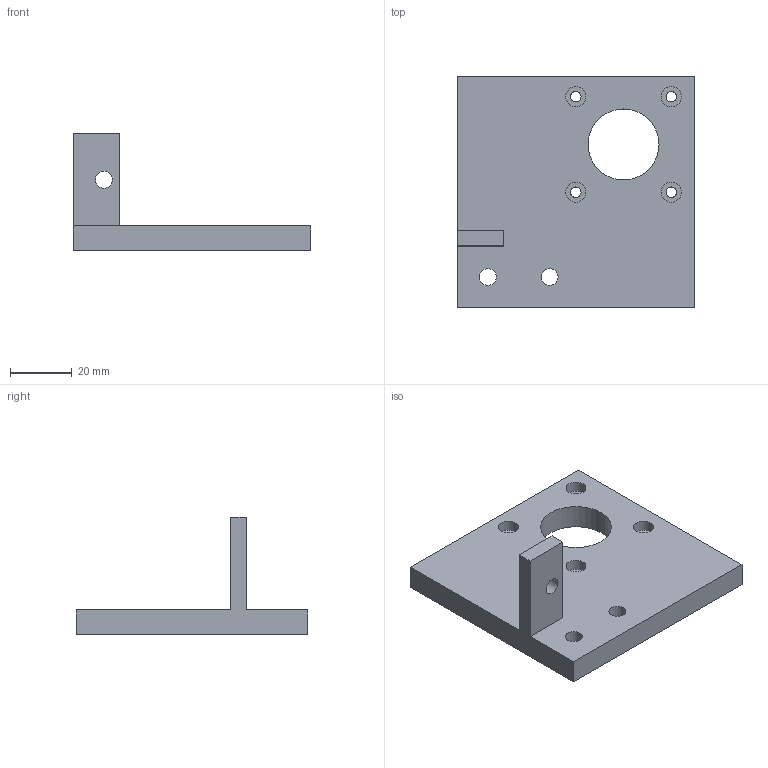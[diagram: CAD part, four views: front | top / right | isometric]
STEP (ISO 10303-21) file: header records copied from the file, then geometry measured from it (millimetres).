
FILE_DESCRIPTION(('Open CASCADE Model'),'2;1');
FILE_NAME('Open CASCADE Shape Model','2026-10-23T08:22:11',('Author'),( 'Open CASCADE'),'Open CASCADE STEP processor 7.9','Open CASCADE 7.9' ,'Unknown');
FILE_SCHEMA(('AUTOMOTIVE_DESIGN { 1 0 10303 214 1 1 1 1 }'));
Length unit declared in the file: millimetre
Products named in the file (1): Open CASCADE STEP translator 7.9 8
Bounding box: 77.15 x 75.15 x 38 mm (x, y, z)
Volume: 44181.9 mm3; surface area: 15605.4 mm2
Topology: 1 solids, 1 shells, 26 faces, 60 edges, 40 vertices
Faces by surface type: plane 14, cylinder 12
Full cylindrical faces by diameter (mm): 3.4 x4, 5.5 x3, 6.5 x4, 23 x1
Entity records: 1570 total; most frequent: DIRECTION 258, CARTESIAN_POINT 247, LINE 132, VECTOR 132, ORIENTED_EDGE 120, PCURVE 120, DEFINITIONAL_REPRESENTATION 120, EDGE_CURVE 60
